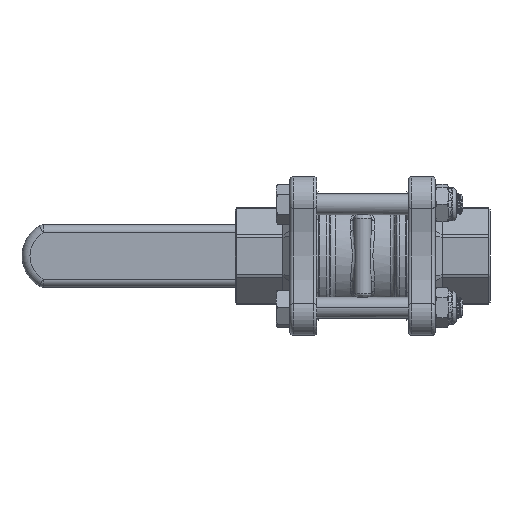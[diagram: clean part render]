
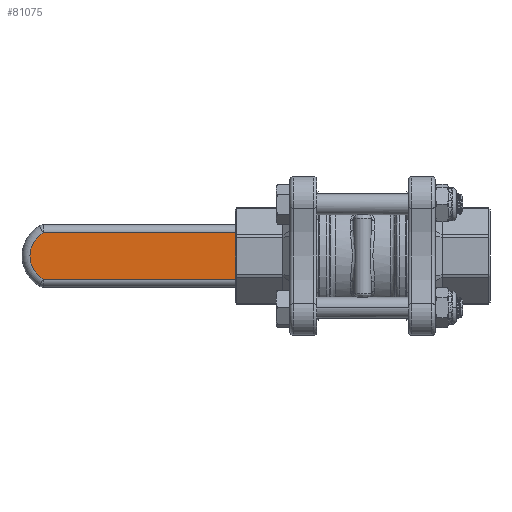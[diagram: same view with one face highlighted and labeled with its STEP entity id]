
A CAD part, front view. The second image highlights one B-rep face of the part: STEP entity #81075.
In plain terms, the highlighted planar face has unit normal (0, -1, 0).
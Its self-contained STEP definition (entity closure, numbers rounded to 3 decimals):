
#6209 = EDGE_CURVE ( 'NONE', #10859, #10866, #25629, .T. ) ;
#6217 = EDGE_CURVE ( 'NONE', #10839, #10859, #25655, .T. ) ;
#6219 = EDGE_CURVE ( 'NONE', #11626, #10866, #25664, .T. ) ;
#6220 = EDGE_CURVE ( 'NONE', #11626, #10839, #25666, .T. ) ;
#10839 = VERTEX_POINT ( 'NONE', #51541 ) ;
#10859 = VERTEX_POINT ( 'NONE', #51551 ) ;
#10866 = VERTEX_POINT ( 'NONE', #51555 ) ;
#11626 = VERTEX_POINT ( 'NONE', #66655 ) ;
#22407 = ORIENTED_EDGE ( 'NONE', *, *, #6220, .T. ) ;
#22410 = ORIENTED_EDGE ( 'NONE', *, *, #6209, .T. ) ;
#22416 = ORIENTED_EDGE ( 'NONE', *, *, #6217, .T. ) ;
#22441 = ORIENTED_EDGE ( 'NONE', *, *, #6219, .F. ) ;
#23454 = AXIS2_PLACEMENT_3D ( 'NONE', #33799, #33801, #33803 ) ;
#25629 = LINE ( 'NONE', #33714, #25634 ) ;
#25634 = VECTOR ( 'NONE', #33726, 1000. ) ;
#25655 = LINE ( 'NONE', #33775, #25662 ) ;
#25662 = VECTOR ( 'NONE', #33778, 1000. ) ;
#25664 = LINE ( 'NONE', #33769, #25668 ) ;
#25666 = CIRCLE ( 'NONE', #23454, 7.75 ) ;
#25668 = VECTOR ( 'NONE', #33759, 1000. ) ;
#33714 = CARTESIAN_POINT ( 'NONE',  ( 0., -2.5, -6.7 ) ) ;
#33726 = DIRECTION ( 'NONE',  ( 0., 0., -1. ) ) ;
#33759 = DIRECTION ( 'NONE',  ( -1., 0., 0. ) ) ;
#33769 = CARTESIAN_POINT ( 'NONE',  ( 62., -2.5, -6.7 ) ) ;
#33775 = CARTESIAN_POINT ( 'NONE',  ( 62., -2.5, 6.7 ) ) ;
#33778 = DIRECTION ( 'NONE',  ( -1., 0., 0. ) ) ;
#33799 = CARTESIAN_POINT ( 'NONE',  ( 51.95, -2.5, 0. ) ) ;
#33801 = DIRECTION ( 'NONE',  ( 0., -1., 0. ) ) ;
#33803 = DIRECTION ( 'NONE',  ( 0., 0., 1. ) ) ;
#51541 = CARTESIAN_POINT ( 'NONE',  ( 55.845, -2.5, 6.7 ) ) ;
#51551 = CARTESIAN_POINT ( 'NONE',  ( 0., -2.5, 6.7 ) ) ;
#51555 = CARTESIAN_POINT ( 'NONE',  ( 0., -2.5, -6.7 ) ) ;
#66655 = CARTESIAN_POINT ( 'NONE',  ( 55.845, -2.5, -6.7 ) ) ;
#71772 = FACE_OUTER_BOUND ( 'NONE', #78329, .T. ) ;
#78329 = EDGE_LOOP ( 'NONE', ( #22441, #22407, #22416, #22410 ) ) ;
#80758 = AXIS2_PLACEMENT_3D ( 'NONE', #82051, #82057, #82058 ) ;
#81075 = ADVANCED_FACE ( 'NONE', ( #71772 ), #82055, .F. ) ;
#82051 = CARTESIAN_POINT ( 'NONE',  ( 62., -2.5, -6.7 ) ) ;
#82055 = PLANE ( 'NONE',  #80758 ) ;
#82057 = DIRECTION ( 'NONE',  ( 0., 1., 0. ) ) ;
#82058 = DIRECTION ( 'NONE',  ( 0., 0., 1. ) ) ;
